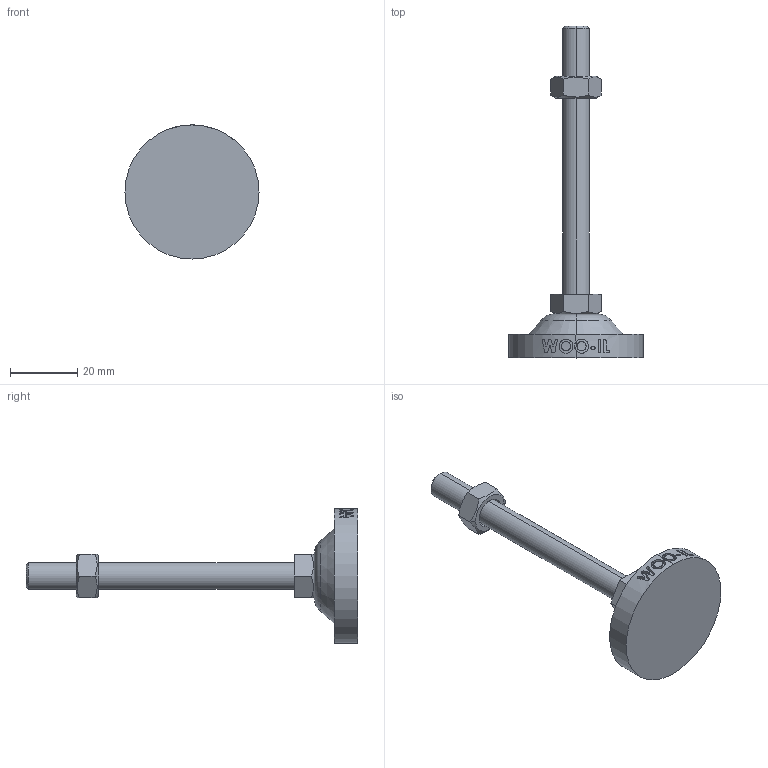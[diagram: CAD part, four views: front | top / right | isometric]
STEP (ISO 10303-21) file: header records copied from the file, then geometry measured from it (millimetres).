
FILE_DESCRIPTION (( 'STEP AP214' ), '1' );
FILE_NAME ('RB40-M8-80.step', '2021-01-18T05:48:19', ( '' ), ( '' ), 'SwSTEP 2.0', 'SolidWorks 2019', '' );
FILE_SCHEMA (( 'AUTOMOTIVE_DESIGN' ));
Length unit declared in the file: millimetre
Products named in the file (2): RB40-M8-80
Bounding box: 40 x 99 x 40 mm (x, y, z)
Volume: 15561.7 mm3; surface area: 7525.7 mm2
Topology: 2 solids, 3 shells, 129 faces, 323 edges, 210 vertices
Faces by surface type: plane 48, cylinder 43, bspline 18, cone 16, torus 4
Entity records: 5302 total; most frequent: CARTESIAN_POINT 2423, ORIENTED_EDGE 646, DIRECTION 483, EDGE_CURVE 323, VERTEX_POINT 210, AXIS2_PLACEMENT_3D 177, EDGE_LOOP 141, LINE 129
